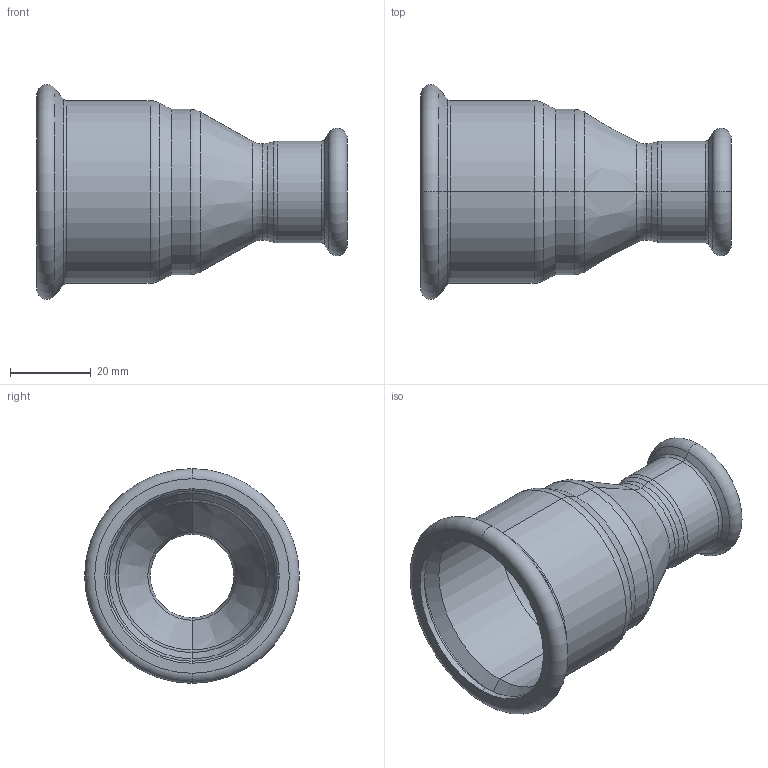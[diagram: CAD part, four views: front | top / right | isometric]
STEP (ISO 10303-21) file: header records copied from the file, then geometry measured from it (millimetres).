
FILE_DESCRIPTION (( 'STEP AP214' ), '1' );
FILE_NAME ('R422200.STEP', '2025-08-17T15:11:35', ( '' ), ( '' ), 'SwSTEP 2.0', 'SolidWorks 2020', '' );
FILE_SCHEMA (( 'AUTOMOTIVE_DESIGN' ));
Length unit declared in the file: millimetre
Products named in the file (1): R422200
Bounding box: 77 x 53.28 x 53.28 mm (x, y, z)
Volume: 15584.5 mm3; surface area: 20278.6 mm2
Topology: 1 solids, 1 shells, 76 faces, 152 edges, 80 vertices
Faces by surface type: torus 36, cone 20, cylinder 16, plane 4
Entity records: 2746 total; most frequent: DIRECTION 422, CARTESIAN_POINT 309, ORIENTED_EDGE 304, AXIS2_PLACEMENT_3D 193, EDGE_CURVE 152, CIRCLE 116, EDGE_LOOP 80, VERTEX_POINT 80
